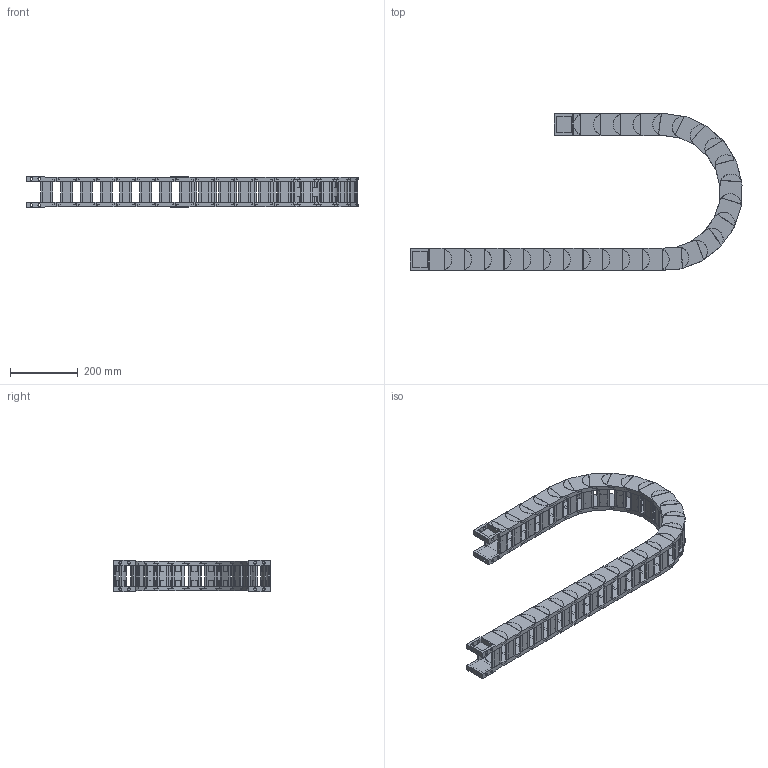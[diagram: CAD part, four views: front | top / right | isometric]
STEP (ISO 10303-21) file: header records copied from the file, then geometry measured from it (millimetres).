
FILE_DESCRIPTION((''),'2;1');
FILE_NAME('HD45-R200-ZPT_ASM','2022-06-20T19:13:05',('admin'),(''),'CREO PARAMETRIC BY PTC INC, 2021164','CREO PARAMETRIC BY PTC INC, 2021164','');
FILE_SCHEMA(('CONFIG_CONTROL_DESIGN','GEOMETRIC_VALIDATION_PROPERTIES_MIM'));
Length unit declared in the file: millimetre
Products named in the file (6): HD45-585; 45-500001; HD45_ASM; H45-T1-G; H45-T2-G; HD45-R200-ZPT_ASM
Assembly tree (32 placements, depth 3):
  HD45-R200-ZPT_ASM
    HD45_ASM  x26
      HD45-585
      45-500001
    H45-T1-G
    H45-T2-G
    45-500001  x2
Bounding box: 982.75 x 464.29 x 93.1 mm (x, y, z)
Volume: 4070981.3 mm3; surface area: 1435137.1 mm2
Topology: 112 solids, 112 shells, 2170 faces, 5810 edges, 3980 vertices
Faces by surface type: plane 1426, cylinder 744
Entity records: 8702 total; most frequent: CARTESIAN_POINT 1404, DIRECTION 1394, ORIENTED_EDGE 1276, EDGE_CURVE 638, AXIS2_PLACEMENT_3D 486, VERTEX_POINT 432, VECTOR 422, LINE 422
